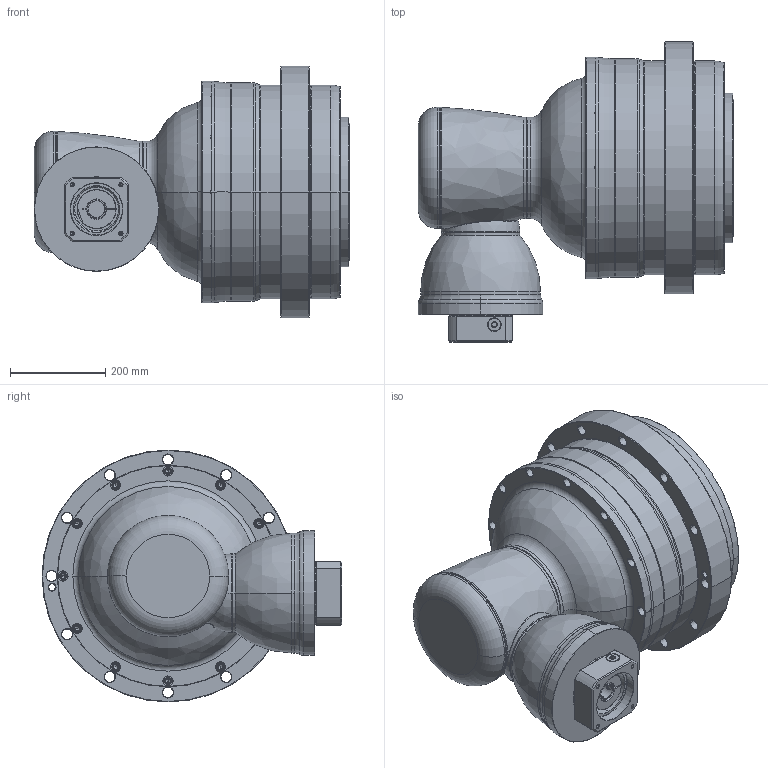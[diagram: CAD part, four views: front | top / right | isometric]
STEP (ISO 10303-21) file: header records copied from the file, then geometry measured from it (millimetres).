
FILE_DESCRIPTION((''),'2;1');
FILE_NAME('AHKA450_3ST_35-P0409800101_ASM','2016-12-07T',('d01943'),(''),'PRO/ENGINEER BY PARAMETRIC TECHNOLOGY CORPORATION, 2008410','PRO/ENGINEER BY PARAMETRIC TECHNOLOGY CORPORATION, 2008410','');
FILE_SCHEMA(('CONFIG_CONTROL_DESIGN'));
Length unit declared in the file: millimetre
Products named in the file (12): P1008700002; P1821200001; P0276200003; P0357200003; P1315700001; P1007700001; P1318700001; P0409800101; P0503800012; P0912700201; 21711422019; AHKA450_3ST_35-P0409800101_ASM
Assembly tree (11 placements, depth 2):
  AHKA450_3ST_35-P0409800101_ASM
    P1008700002
    P1821200001
    P0276200003
    P0357200003
    P1315700001
    P1007700001
    P1318700001
    P0409800101
    P0503800012
    P0912700201
    21711422019
Bounding box: 663.5 x 631 x 530 mm (x, y, z)
Volume: 73470669.8 mm3; surface area: 2603044.4 mm2
Topology: 12 solids, 12 shells, 924 faces, 2044 edges, 1176 vertices
Faces by surface type: cone 332, cylinder 319, torus 122, plane 119, bspline 30, sphere 2
Entity records: 32836 total; most frequent: CARTESIAN_POINT 11789, DIRECTION 4860, ORIENTED_EDGE 3976, AXIS2_PLACEMENT_3D 2071, EDGE_CURVE 1988, VERTEX_POINT 1176, CIRCLE 1154, EDGE_LOOP 1104
